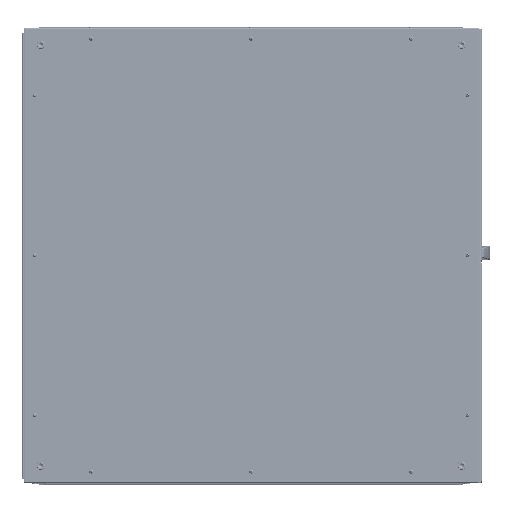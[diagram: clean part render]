
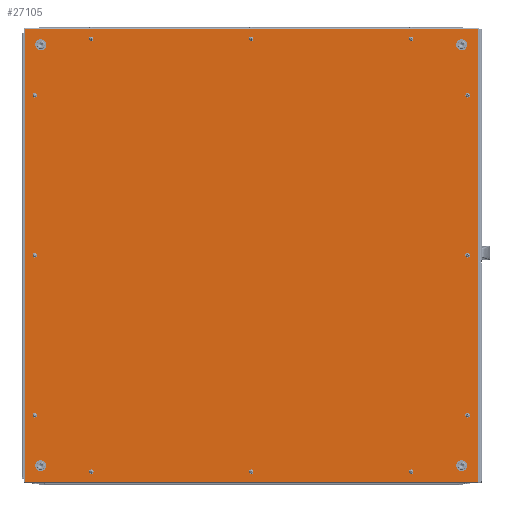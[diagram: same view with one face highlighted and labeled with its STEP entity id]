
A CAD part, top view. The second image highlights one B-rep face of the part: STEP entity #27105.
In plain terms, the highlighted planar face has unit normal (0, 0, 1).
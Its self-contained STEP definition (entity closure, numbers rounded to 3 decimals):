
#27105=ADVANCED_FACE('',(#161594,#161596,#161598,#161600,#161602,#161604,#161606,
#161608,#161610,#161612,#161614,#161616,#161618,#161620,#161622,#161624,#161626),
#161628,.T.);
#161594=FACE_BOUND('',#161595,.T.);
#161595=EDGE_LOOP('',(#389020,#389021,#389022,#389023));
#161596=FACE_BOUND('',#161597,.T.);
#161597=EDGE_LOOP('',(#389024));
#161598=FACE_BOUND('',#161599,.T.);
#161599=EDGE_LOOP('',(#389025));
#161600=FACE_BOUND('',#161601,.T.);
#161601=EDGE_LOOP('',(#389026));
#161602=FACE_BOUND('',#161603,.T.);
#161603=EDGE_LOOP('',(#389027));
#161604=FACE_BOUND('',#161605,.T.);
#161605=EDGE_LOOP('',(#389028));
#161606=FACE_BOUND('',#161607,.T.);
#161607=EDGE_LOOP('',(#389029));
#161608=FACE_BOUND('',#161609,.T.);
#161609=EDGE_LOOP('',(#389030));
#161610=FACE_BOUND('',#161611,.T.);
#161611=EDGE_LOOP('',(#389031));
#161612=FACE_BOUND('',#161613,.T.);
#161613=EDGE_LOOP('',(#389032));
#161614=FACE_BOUND('',#161615,.T.);
#161615=EDGE_LOOP('',(#389033));
#161616=FACE_BOUND('',#161617,.T.);
#161617=EDGE_LOOP('',(#389034));
#161618=FACE_BOUND('',#161619,.T.);
#161619=EDGE_LOOP('',(#389035));
#161620=FACE_BOUND('',#161621,.T.);
#161621=EDGE_LOOP('',(#389036));
#161622=FACE_BOUND('',#161623,.T.);
#161623=EDGE_LOOP('',(#389037));
#161624=FACE_BOUND('',#161625,.T.);
#161625=EDGE_LOOP('',(#389038));
#161626=FACE_BOUND('',#161627,.T.);
#161627=EDGE_LOOP('',(#389039));
#161628=PLANE('',#161629);
#161629=AXIS2_PLACEMENT_3D('',#161630,#161631,#161632);
#161630=CARTESIAN_POINT('',(0.,0.,1.5));
#161631=DIRECTION('',(0.,0.,1.));
#161632=DIRECTION('',(0.,1.,0.));
#389020=ORIENTED_EDGE('',*,*,#438827,.T.);
#389021=ORIENTED_EDGE('',*,*,#438828,.T.);
#389022=ORIENTED_EDGE('',*,*,#438829,.T.);
#389023=ORIENTED_EDGE('',*,*,#438830,.T.);
#389024=ORIENTED_EDGE('',*,*,#438806,.T.);
#389025=ORIENTED_EDGE('',*,*,#438805,.T.);
#389026=ORIENTED_EDGE('',*,*,#438804,.T.);
#389027=ORIENTED_EDGE('',*,*,#438803,.T.);
#389028=ORIENTED_EDGE('',*,*,#438802,.T.);
#389029=ORIENTED_EDGE('',*,*,#438801,.T.);
#389030=ORIENTED_EDGE('',*,*,#438800,.T.);
#389031=ORIENTED_EDGE('',*,*,#438799,.T.);
#389032=ORIENTED_EDGE('',*,*,#438794,.T.);
#389033=ORIENTED_EDGE('',*,*,#438795,.T.);
#389034=ORIENTED_EDGE('',*,*,#438796,.T.);
#389035=ORIENTED_EDGE('',*,*,#438797,.T.);
#389036=ORIENTED_EDGE('',*,*,#438793,.T.);
#389037=ORIENTED_EDGE('',*,*,#438792,.T.);
#389038=ORIENTED_EDGE('',*,*,#438791,.T.);
#389039=ORIENTED_EDGE('',*,*,#438790,.T.);
#438790=EDGE_CURVE('',#506994,#506994,#506995,.F.);
#438791=EDGE_CURVE('',#506996,#506996,#506997,.F.);
#438792=EDGE_CURVE('',#506998,#506998,#506999,.F.);
#438793=EDGE_CURVE('',#507000,#507000,#507001,.F.);
#438794=EDGE_CURVE('',#507002,#507002,#507003,.F.);
#438795=EDGE_CURVE('',#507004,#507004,#507005,.F.);
#438796=EDGE_CURVE('',#507006,#507006,#507007,.F.);
#438797=EDGE_CURVE('',#507008,#507008,#507009,.F.);
#438799=EDGE_CURVE('',#507012,#507012,#507013,.F.);
#438800=EDGE_CURVE('',#507014,#507014,#507015,.F.);
#438801=EDGE_CURVE('',#507016,#507016,#507017,.F.);
#438802=EDGE_CURVE('',#507018,#507018,#507019,.F.);
#438803=EDGE_CURVE('',#507020,#507020,#507021,.F.);
#438804=EDGE_CURVE('',#507022,#507022,#507023,.F.);
#438805=EDGE_CURVE('',#507024,#507024,#507025,.F.);
#438806=EDGE_CURVE('',#507026,#507026,#507027,.F.);
#438827=EDGE_CURVE('',#507064,#507065,#507066,.T.);
#438828=EDGE_CURVE('',#507065,#507067,#507068,.T.);
#438829=EDGE_CURVE('',#507067,#507069,#507070,.T.);
#438830=EDGE_CURVE('',#507069,#507064,#507071,.T.);
#506994=VERTEX_POINT('',#660940);
#506995=CIRCLE('',#660941,3.75);
#506996=VERTEX_POINT('',#660945);
#506997=CIRCLE('',#660946,3.75);
#506998=VERTEX_POINT('',#660950);
#506999=CIRCLE('',#660951,3.75);
#507000=VERTEX_POINT('',#660955);
#507001=CIRCLE('',#660956,3.75);
#507002=VERTEX_POINT('',#660960);
#507003=CIRCLE('',#660961,7.);
#507004=VERTEX_POINT('',#660965);
#507005=CIRCLE('',#660966,7.);
#507006=VERTEX_POINT('',#660970);
#507007=CIRCLE('',#660971,7.);
#507008=VERTEX_POINT('',#660975);
#507009=CIRCLE('',#660976,7.);
#507012=VERTEX_POINT('',#660985);
#507013=CIRCLE('',#660986,3.75);
#507014=VERTEX_POINT('',#660990);
#507015=CIRCLE('',#660991,3.75);
#507016=VERTEX_POINT('',#660995);
#507017=CIRCLE('',#660996,3.75);
#507018=VERTEX_POINT('',#661000);
#507019=CIRCLE('',#661001,3.75);
#507020=VERTEX_POINT('',#661005);
#507021=CIRCLE('',#661006,3.75);
#507022=VERTEX_POINT('',#661010);
#507023=CIRCLE('',#661011,3.75);
#507024=VERTEX_POINT('',#661015);
#507025=CIRCLE('',#661016,3.75);
#507026=VERTEX_POINT('',#661020);
#507027=CIRCLE('',#661021,3.75);
#507064=VERTEX_POINT('',#661237);
#507065=VERTEX_POINT('',#661238);
#507066=LINE('',#661239,#661240);
#507067=VERTEX_POINT('',#661242);
#507068=LINE('',#661243,#661244);
#507069=VERTEX_POINT('',#661246);
#507070=LINE('',#661247,#661248);
#507071=LINE('',#661250,#661251);
#660940=CARTESIAN_POINT('',(0.,-469.75,1.5));
#660941=AXIS2_PLACEMENT_3D('',#660942,#660943,#660944);
#660942=CARTESIAN_POINT('',(0.,-473.5,1.5));
#660943=DIRECTION('',(0.,0.,1.));
#660944=DIRECTION('',(0.,1.,0.));
#660945=CARTESIAN_POINT('',(0.,477.25,1.5));
#660946=AXIS2_PLACEMENT_3D('',#660947,#660948,#660949);
#660947=CARTESIAN_POINT('',(0.,473.5,1.5));
#660948=DIRECTION('',(0.,0.,1.));
#660949=DIRECTION('',(0.,1.,0.));
#660950=CARTESIAN_POINT('',(473.5,3.75,1.5));
#660951=AXIS2_PLACEMENT_3D('',#660952,#660953,#660954);
#660952=CARTESIAN_POINT('',(473.5,0.,1.5));
#660953=DIRECTION('',(0.,0.,1.));
#660954=DIRECTION('',(0.,1.,0.));
#660955=CARTESIAN_POINT('',(-473.5,3.75,1.5));
#660956=AXIS2_PLACEMENT_3D('',#660957,#660958,#660959);
#660957=CARTESIAN_POINT('',(-473.5,0.,1.5));
#660958=DIRECTION('',(0.,0.,1.));
#660959=DIRECTION('',(0.,1.,0.));
#660960=CARTESIAN_POINT('',(460.5,-453.5,1.5));
#660961=AXIS2_PLACEMENT_3D('',#660962,#660963,#660964);
#660962=CARTESIAN_POINT('',(460.5,-460.5,1.5));
#660963=DIRECTION('',(0.,0.,1.));
#660964=DIRECTION('',(0.,1.,0.));
#660965=CARTESIAN_POINT('',(-460.5,467.5,1.5));
#660966=AXIS2_PLACEMENT_3D('',#660967,#660968,#660969);
#660967=CARTESIAN_POINT('',(-460.5,460.5,1.5));
#660968=DIRECTION('',(0.,0.,1.));
#660969=DIRECTION('',(0.,1.,0.));
#660970=CARTESIAN_POINT('',(-460.5,-453.5,1.5));
#660971=AXIS2_PLACEMENT_3D('',#660972,#660973,#660974);
#660972=CARTESIAN_POINT('',(-460.5,-460.5,1.5));
#660973=DIRECTION('',(0.,0.,1.));
#660974=DIRECTION('',(0.,1.,0.));
#660975=CARTESIAN_POINT('',(460.5,467.5,1.5));
#660976=AXIS2_PLACEMENT_3D('',#660977,#660978,#660979);
#660977=CARTESIAN_POINT('',(460.5,460.5,1.5));
#660978=DIRECTION('',(0.,0.,1.));
#660979=DIRECTION('',(0.,1.,0.));
#660985=CARTESIAN_POINT('',(-473.5,-346.25,1.5));
#660986=AXIS2_PLACEMENT_3D('',#660987,#660988,#660989);
#660987=CARTESIAN_POINT('',(-473.5,-350.,1.5));
#660988=DIRECTION('',(0.,0.,1.));
#660989=DIRECTION('',(0.,1.,0.));
#660990=CARTESIAN_POINT('',(473.5,353.75,1.5));
#660991=AXIS2_PLACEMENT_3D('',#660992,#660993,#660994);
#660992=CARTESIAN_POINT('',(473.5,350.,1.5));
#660993=DIRECTION('',(0.,0.,1.));
#660994=DIRECTION('',(0.,1.,0.));
#660995=CARTESIAN_POINT('',(473.5,-346.25,1.5));
#660996=AXIS2_PLACEMENT_3D('',#660997,#660998,#660999);
#660997=CARTESIAN_POINT('',(473.5,-350.,1.5));
#660998=DIRECTION('',(0.,0.,1.));
#660999=DIRECTION('',(0.,1.,0.));
#661000=CARTESIAN_POINT('',(-473.5,353.75,1.5));
#661001=AXIS2_PLACEMENT_3D('',#661002,#661003,#661004);
#661002=CARTESIAN_POINT('',(-473.5,350.,1.5));
#661003=DIRECTION('',(0.,0.,1.));
#661004=DIRECTION('',(0.,1.,0.));
#661005=CARTESIAN_POINT('',(-350.,-469.75,1.5));
#661006=AXIS2_PLACEMENT_3D('',#661007,#661008,#661009);
#661007=CARTESIAN_POINT('',(-350.,-473.5,1.5));
#661008=DIRECTION('',(0.,0.,1.));
#661009=DIRECTION('',(0.,1.,0.));
#661010=CARTESIAN_POINT('',(350.,477.25,1.5));
#661011=AXIS2_PLACEMENT_3D('',#661012,#661013,#661014);
#661012=CARTESIAN_POINT('',(350.,473.5,1.5));
#661013=DIRECTION('',(0.,0.,1.));
#661014=DIRECTION('',(0.,1.,0.));
#661015=CARTESIAN_POINT('',(-350.,477.25,1.5));
#661016=AXIS2_PLACEMENT_3D('',#661017,#661018,#661019);
#661017=CARTESIAN_POINT('',(-350.,473.5,1.5));
#661018=DIRECTION('',(0.,0.,1.));
#661019=DIRECTION('',(0.,1.,0.));
#661020=CARTESIAN_POINT('',(350.,-469.75,1.5));
#661021=AXIS2_PLACEMENT_3D('',#661022,#661023,#661024);
#661022=CARTESIAN_POINT('',(350.,-473.5,1.5));
#661023=DIRECTION('',(0.,0.,1.));
#661024=DIRECTION('',(0.,1.,0.));
#661237=CARTESIAN_POINT('',(495.2,495.2,1.5));
#661238=CARTESIAN_POINT('',(-495.2,495.2,1.5));
#661239=CARTESIAN_POINT('',(495.2,495.2,1.5));
#661240=VECTOR('',#661241,1.);
#661241=DIRECTION('',(-1.,0.,0.));
#661242=CARTESIAN_POINT('',(-495.2,-495.2,1.5));
#661243=CARTESIAN_POINT('',(-495.2,495.2,1.5));
#661244=VECTOR('',#661245,1.);
#661245=DIRECTION('',(0.,-1.,0.));
#661246=CARTESIAN_POINT('',(495.2,-495.2,1.5));
#661247=CARTESIAN_POINT('',(-495.2,-495.2,1.5));
#661248=VECTOR('',#661249,1.);
#661249=DIRECTION('',(1.,0.,0.));
#661250=CARTESIAN_POINT('',(495.2,-495.2,1.5));
#661251=VECTOR('',#661252,1.);
#661252=DIRECTION('',(0.,1.,0.));
